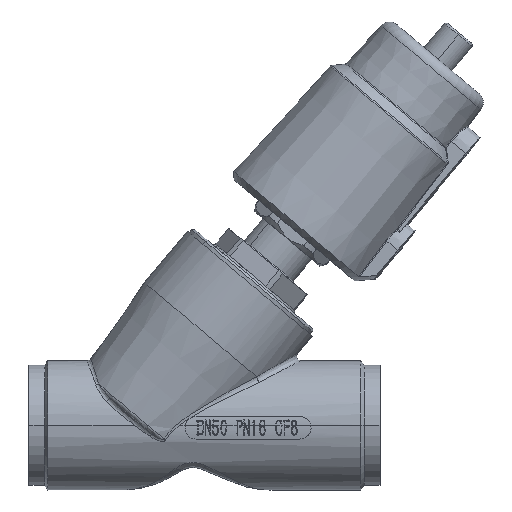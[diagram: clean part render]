
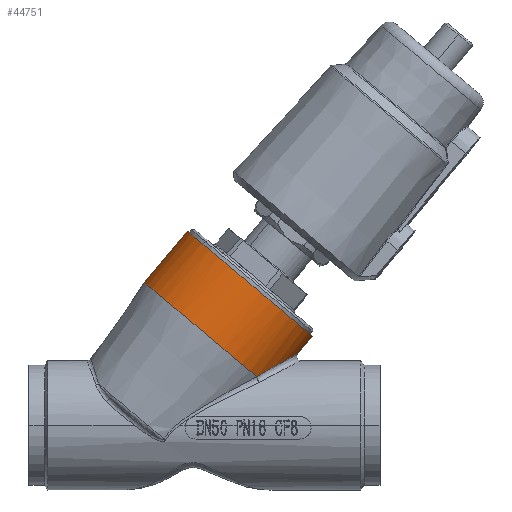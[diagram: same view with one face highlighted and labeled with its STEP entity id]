
A CAD part, top view. The second image highlights one B-rep face of the part: STEP entity #44751.
In plain terms, the highlighted cylindrical face has radius 36 mm (diameter 72 mm), a partial arc.
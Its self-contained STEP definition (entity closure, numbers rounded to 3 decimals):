
#395 = EDGE_LOOP ( 'NONE', ( #12439, #25902, #2385, #33231, #648, #12291 ) ) ;
#648 = ORIENTED_EDGE ( 'NONE', *, *, #34988, .T. ) ;
#1567 = CARTESIAN_POINT ( 'NONE',  ( 117.324, 31.041, 6.372 ) ) ;
#1950 = DIRECTION ( 'NONE',  ( 0.643, 0.766, 0. ) ) ;
#2179 = B_SPLINE_CURVE_WITH_KNOTS ( 'NONE', 3,
 ( #22306, #25794, #4929, #29334, #8454, #32796, #11943, #36321, #15424, #39788, #18962, #43289, #22445, #1567, #25956, #5083, #29474, #8613, #32962, #12084, #36467, #15588 ),
 .UNSPECIFIED., .F., .F.,
 ( 4, 2, 2, 2, 2, 2, 2, 2, 2, 2, 4 ),
 ( 0., 0.004, 0.008, 0.012, 0.016, 0.02, 0.024, 0.028, 0.029, 0.03, 0.032 ),
 .UNSPECIFIED. ) ;
#2385 = ORIENTED_EDGE ( 'NONE', *, *, #9816, .F. ) ;
#2609 = VERTEX_POINT ( 'NONE', #23168 ) ;
#2978 = CARTESIAN_POINT ( 'NONE',  ( 118.666, 31.786, 0. ) ) ;
#4232 = DIRECTION ( 'NONE',  ( 0.643, 0.766, 0. ) ) ;
#4929 = CARTESIAN_POINT ( 'NONE',  ( 102.667, 22.621, 20.451 ) ) ;
#5083 = CARTESIAN_POINT ( 'NONE',  ( 118.232, 31.545, 3.589 ) ) ;
#6593 = VERTEX_POINT ( 'NONE', #14084 ) ;
#7046 = VERTEX_POINT ( 'NONE', #2978 ) ;
#8428 = CARTESIAN_POINT ( 'NONE',  ( 100.58, 21.427, 21.596 ) ) ;
#8454 = CARTESIAN_POINT ( 'NONE',  ( 105.683, 24.406, 18.657 ) ) ;
#8592 = CARTESIAN_POINT ( 'NONE',  ( 100.594, 21.415, 21.571 ) ) ;
#8613 = CARTESIAN_POINT ( 'NONE',  ( 118.437, 31.659, 2.617 ) ) ;
#8662 = EDGE_CURVE ( 'NONE', #31393, #44505, #12252, .T. ) ;
#9131 = DIRECTION ( 'NONE',  ( 0.643, 0.766, 0. ) ) ;
#9816 = EDGE_CURVE ( 'NONE', #44505, #2609, #44379, .T. ) ;
#9953 = AXIS2_PLACEMENT_3D ( 'NONE', #29979, #9131, #33476 ) ;
#10707 = CARTESIAN_POINT ( 'NONE',  ( 69.938, 85.726, 0. ) ) ;
#10800 = DIRECTION ( 'NONE',  ( 0.643, 0.766, 0. ) ) ;
#11943 = CARTESIAN_POINT ( 'NONE',  ( 108.59, 26.097, 16.634 ) ) ;
#12066 = AXIS2_PLACEMENT_3D ( 'NONE', #20709, #31052, #45065 ) ;
#12084 = CARTESIAN_POINT ( 'NONE',  ( 118.622, 31.761, 1.314 ) ) ;
#12252 = LINE ( 'NONE', #28771, #29703 ) ;
#12291 = ORIENTED_EDGE ( 'NONE', *, *, #33884, .T. ) ;
#12439 = ORIENTED_EDGE ( 'NONE', *, *, #16738, .T. ) ;
#14084 = CARTESIAN_POINT ( 'NONE',  ( 100.605, 21.377, 21.526 ) ) ;
#15424 = CARTESIAN_POINT ( 'NONE',  ( 111.358, 27.684, 14.331 ) ) ;
#15566 = CARTESIAN_POINT ( 'NONE',  ( 100.605, 21.377, 21.526 ) ) ;
#15571 = EDGE_CURVE ( 'NONE', #7046, #2609, #24260, .T. ) ;
#15588 = CARTESIAN_POINT ( 'NONE',  ( 118.666, 31.786, 0. ) ) ;
#16738 = EDGE_CURVE ( 'NONE', #6593, #7046, #2179, .T. ) ;
#18132 = CARTESIAN_POINT ( 'NONE',  ( 100.58, 21.427, 21.596 ) ) ;
#18962 = CARTESIAN_POINT ( 'NONE',  ( 113.923, 29.138, 11.677 ) ) ;
#19328 = CARTESIAN_POINT ( 'NONE',  ( 106.093, 16.801, 0. ) ) ;
#20709 = CARTESIAN_POINT ( 'NONE',  ( 78.515, 39.942, 0. ) ) ;
#21663 = AXIS2_PLACEMENT_3D ( 'NONE', #25103, #4232, #28625 ) ;
#22306 = CARTESIAN_POINT ( 'NONE',  ( 100.605, 21.377, 21.526 ) ) ;
#22445 = CARTESIAN_POINT ( 'NONE',  ( 116.128, 30.374, 8.657 ) ) ;
#23168 = CARTESIAN_POINT ( 'NONE',  ( 125.093, 39.445, 0. ) ) ;
#24260 = LINE ( 'NONE', #19328, #33511 ) ;
#25103 = CARTESIAN_POINT ( 'NONE',  ( 78.515, 39.942, 0. ) ) ;
#25794 = CARTESIAN_POINT ( 'NONE',  ( 101.64, 22.005, 21.004 ) ) ;
#25902 = ORIENTED_EDGE ( 'NONE', *, *, #15571, .T. ) ;
#25956 = CARTESIAN_POINT ( 'NONE',  ( 117.809, 31.31, 5.174 ) ) ;
#26586 = FACE_OUTER_BOUND ( 'NONE', #395, .T. ) ;
#28625 = DIRECTION ( 'NONE',  ( -0.766, 0.643, 0. ) ) ;
#28629 = CIRCLE ( 'NONE', #21663, 36. ) ;
#28771 = CARTESIAN_POINT ( 'NONE',  ( 50.937, 63.082, 0. ) ) ;
#29334 = CARTESIAN_POINT ( 'NONE',  ( 104.688, 23.821, 19.278 ) ) ;
#29474 = CARTESIAN_POINT ( 'NONE',  ( 118.307, 31.587, 3.266 ) ) ;
#29703 = VECTOR ( 'NONE', #10800, 1000. ) ;
#29979 = CARTESIAN_POINT ( 'NONE',  ( 97.516, 62.586, 0. ) ) ;
#31052 = DIRECTION ( 'NONE',  ( 0.643, 0.766, 0. ) ) ;
#31393 = VERTEX_POINT ( 'NONE', #43721 ) ;
#32796 = CARTESIAN_POINT ( 'NONE',  ( 107.634, 25.544, 17.336 ) ) ;
#32962 = CARTESIAN_POINT ( 'NONE',  ( 118.491, 31.689, 2.292 ) ) ;
#33231 = ORIENTED_EDGE ( 'NONE', *, *, #8662, .F. ) ;
#33263 = B_SPLINE_CURVE_WITH_KNOTS ( 'NONE', 3,
 ( #8428, #8592, #36446, #15566 ),
 .UNSPECIFIED., .F., .F.,
 ( 4, 4 ),
 ( 0., 0. ),
 .UNSPECIFIED. ) ;
#33476 = DIRECTION ( 'NONE',  ( -0.766, 0.643, 0. ) ) ;
#33511 = VECTOR ( 'NONE', #1950, 1000. ) ;
#33884 = EDGE_CURVE ( 'NONE', #44640, #6593, #33263, .T. ) ;
#34743 = CYLINDRICAL_SURFACE ( 'NONE', #12066, 36. ) ;
#34988 = EDGE_CURVE ( 'NONE', #31393, #44640, #28629, .T. ) ;
#36321 = CARTESIAN_POINT ( 'NONE',  ( 110.452, 27.167, 15.132 ) ) ;
#36446 = CARTESIAN_POINT ( 'NONE',  ( 100.603, 21.398, 21.547 ) ) ;
#36467 = CARTESIAN_POINT ( 'NONE',  ( 118.666, 31.786, 0.659 ) ) ;
#39788 = CARTESIAN_POINT ( 'NONE',  ( 113.101, 28.674, 12.596 ) ) ;
#43289 = CARTESIAN_POINT ( 'NONE',  ( 115.436, 29.987, 9.708 ) ) ;
#43721 = CARTESIAN_POINT ( 'NONE',  ( 50.937, 63.082, 0. ) ) ;
#44379 = CIRCLE ( 'NONE', #9953, 36. ) ;
#44505 = VERTEX_POINT ( 'NONE', #10707 ) ;
#44640 = VERTEX_POINT ( 'NONE', #18132 ) ;
#44751 = ADVANCED_FACE ( 'NONE', ( #26586 ), #34743, .T. ) ;
#45065 = DIRECTION ( 'NONE',  ( -0.766, 0.643, 0. ) ) ;
